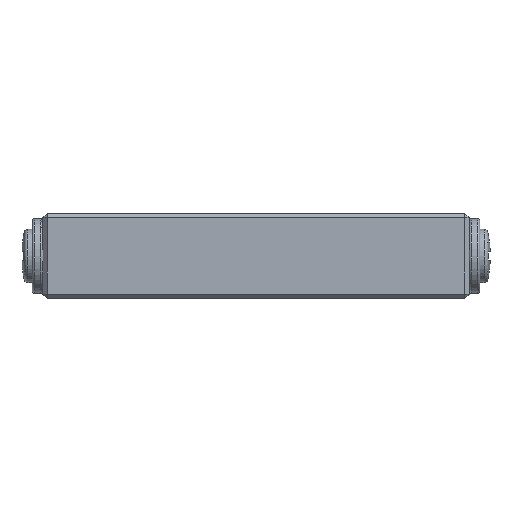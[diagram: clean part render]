
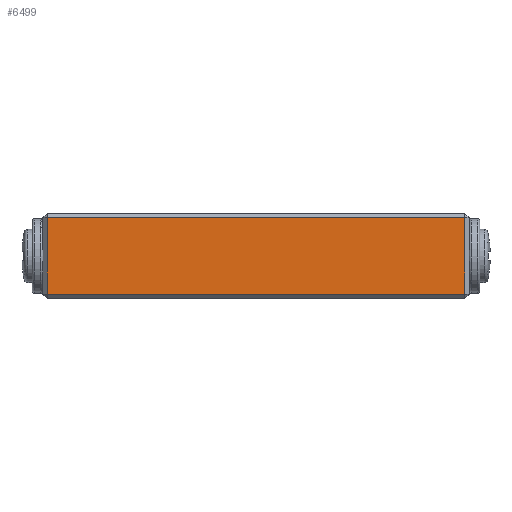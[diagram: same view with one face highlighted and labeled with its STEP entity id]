
A CAD part, top view. The second image highlights one B-rep face of the part: STEP entity #6499.
In plain terms, the highlighted planar face has unit normal (0, 0, 1) as drawn and (0, 0, -1) by its records, which use the part's own axes.
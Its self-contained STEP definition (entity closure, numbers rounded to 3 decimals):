
#634 = VECTOR ( 'NONE', #17820, 1000. ) ;
#724 = CARTESIAN_POINT ( 'NONE',  ( -10., 1.8, 0. ) ) ;
#791 = ORIENTED_EDGE ( 'NONE', *, *, #18950, .T. ) ;
#1155 = VERTEX_POINT ( 'NONE', #10995 ) ;
#3377 = DIRECTION ( 'NONE',  ( 0., 0., -1. ) ) ;
#3888 = LINE ( 'NONE', #724, #15145 ) ;
#4178 = LINE ( 'NONE', #20014, #5764 ) ;
#4640 = VERTEX_POINT ( 'NONE', #5153 ) ;
#5153 = CARTESIAN_POINT ( 'NONE',  ( -9.8, -1.8, 0. ) ) ;
#5764 = VECTOR ( 'NONE', #21493, 1000. ) ;
#5847 = EDGE_CURVE ( 'NONE', #9292, #1155, #3888, .T. ) ;
#6499 = ADVANCED_FACE ( 'NONE', ( #15474 ), #7010, .T. ) ;
#7010 = PLANE ( 'NONE',  #16669 ) ;
#7422 = ORIENTED_EDGE ( 'NONE', *, *, #13474, .T. ) ;
#8011 = CARTESIAN_POINT ( 'NONE',  ( -9.8, 1.8, 0. ) ) ;
#8831 = DIRECTION ( 'NONE',  ( 0., 1., 0. ) ) ;
#9064 = VECTOR ( 'NONE', #17792, 1000. ) ;
#9292 = VERTEX_POINT ( 'NONE', #8011 ) ;
#9462 = ORIENTED_EDGE ( 'NONE', *, *, #5847, .T. ) ;
#10076 = CARTESIAN_POINT ( 'NONE',  ( -10., -2., 0. ) ) ;
#10421 = ORIENTED_EDGE ( 'NONE', *, *, #17087, .T. ) ;
#10879 = LINE ( 'NONE', #21279, #9064 ) ;
#10995 = CARTESIAN_POINT ( 'NONE',  ( 9.8, 1.8, 0. ) ) ;
#13474 = EDGE_CURVE ( 'NONE', #1155, #14808, #4178, .T. ) ;
#14808 = VERTEX_POINT ( 'NONE', #16287 ) ;
#15145 = VECTOR ( 'NONE', #19830, 1000. ) ;
#15474 = FACE_OUTER_BOUND ( 'NONE', #19011, .T. ) ;
#15752 = CARTESIAN_POINT ( 'NONE',  ( -10., -1.8, 0. ) ) ;
#16287 = CARTESIAN_POINT ( 'NONE',  ( 9.8, -1.8, 0. ) ) ;
#16669 = AXIS2_PLACEMENT_3D ( 'NONE', #10076, #3377, #8831 ) ;
#17087 = EDGE_CURVE ( 'NONE', #4640, #9292, #10879, .T. ) ;
#17792 = DIRECTION ( 'NONE',  ( 0., 1., 0. ) ) ;
#17820 = DIRECTION ( 'NONE',  ( -1., 0., 0. ) ) ;
#17921 = LINE ( 'NONE', #15752, #634 ) ;
#18950 = EDGE_CURVE ( 'NONE', #14808, #4640, #17921, .T. ) ;
#19011 = EDGE_LOOP ( 'NONE', ( #9462, #7422, #791, #10421 ) ) ;
#19830 = DIRECTION ( 'NONE',  ( 1., 0., 0. ) ) ;
#20014 = CARTESIAN_POINT ( 'NONE',  ( 9.8, -2., 0. ) ) ;
#21279 = CARTESIAN_POINT ( 'NONE',  ( -9.8, -2., 0. ) ) ;
#21493 = DIRECTION ( 'NONE',  ( 0., -1., 0. ) ) ;
